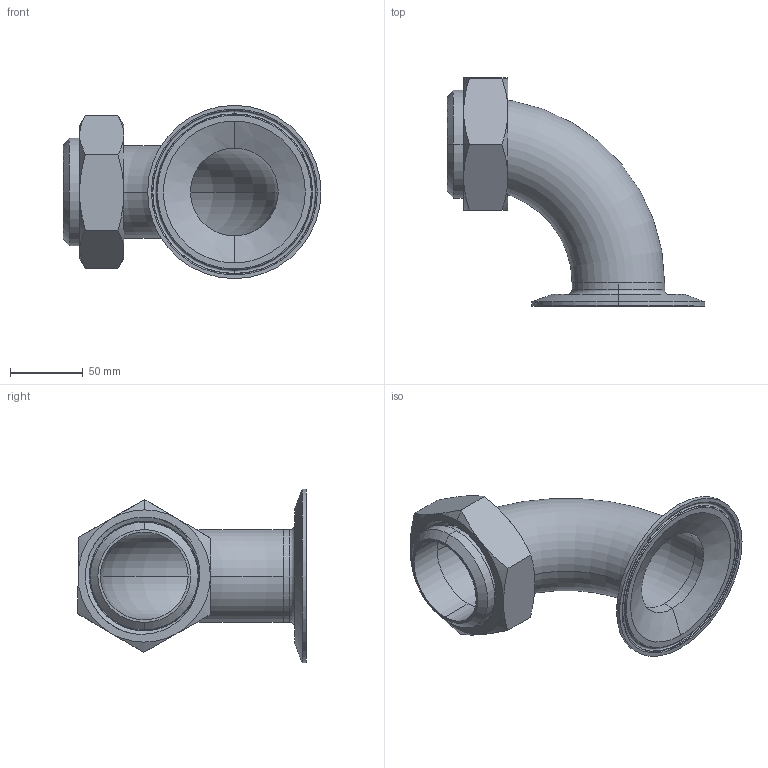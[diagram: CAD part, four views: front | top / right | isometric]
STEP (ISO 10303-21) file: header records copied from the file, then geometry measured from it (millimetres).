
FILE_DESCRIPTION (( 'STEP AP203' ), '1' );
FILE_NAME ('EG231FPR4.0X2.5.STEP', '2018-05-09T15:28:04', ( 'vneprd' ), ( 'Microsoft' ), 'SwSTEP 2.0', 'SolidWorks 2014', '' );
FILE_SCHEMA (( 'CONFIG_CONTROL_DESIGN' ));
Length unit declared in the file: inch
Products named in the file (5): 13H2.5; EG2CS31D4.0X2.5; EG231FPR4.0X2.5; 2WCL2.5; 14PR2.5
Assembly tree (4 placements, depth 2):
  EG231FPR4.0X2.5
    2WCL2.5
    14PR2.5
    13H2.5
    EG2CS31D4.0X2.5
Bounding box: 177.01 x 156.72 x 118.92 mm (x, y, z)
Volume: 178152.7 mm3; surface area: 116762.7 mm2
Topology: 4 solids, 4 shells, 85 faces, 185 edges, 113 vertices
Faces by surface type: cylinder 26, cone 24, plane 20, torus 12, bspline 3
Entity records: 3983 total; most frequent: CARTESIAN_POINT 1627, DIRECTION 407, ORIENTED_EDGE 370, EDGE_CURVE 185, AXIS2_PLACEMENT_3D 179, VERTEX_POINT 113, EDGE_LOOP 98, CIRCLE 90
